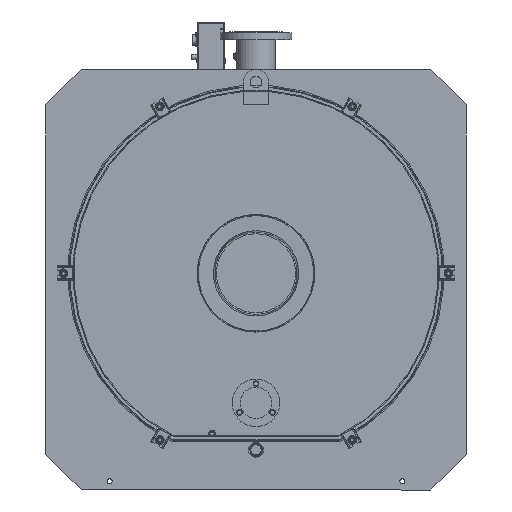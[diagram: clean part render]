
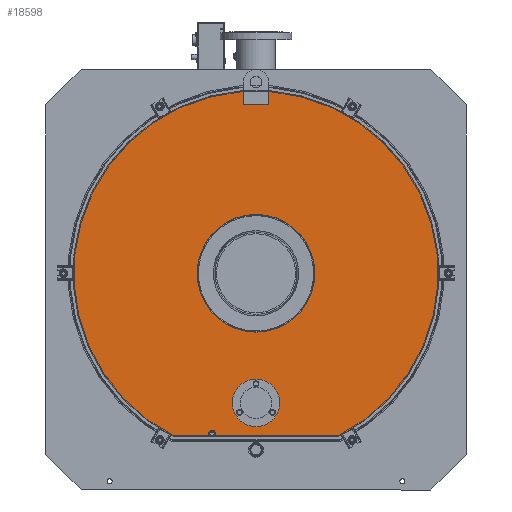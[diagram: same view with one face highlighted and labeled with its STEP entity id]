
A CAD part, left-side view. The second image highlights one B-rep face of the part: STEP entity #18598.
In plain terms, the highlighted planar face has unit normal (-1, 0, 0).
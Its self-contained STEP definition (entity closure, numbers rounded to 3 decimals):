
#18598=ADVANCED_FACE('',(#60419,#60421,#60423),#60425,.T.);
#60419=FACE_BOUND('',#60420,.T.);
#60420=EDGE_LOOP('',(#81886,#81887,#81888,#81889,#81890,#81891,#81892,#81893,#81894,
#81895));
#60421=FACE_BOUND('',#60422,.T.);
#60422=EDGE_LOOP('',(#81896));
#60423=FACE_BOUND('',#60424,.T.);
#60424=EDGE_LOOP('',(#81897));
#60425=PLANE('',#60426);
#60426=AXIS2_PLACEMENT_3D('',#60427,#60428,#60429);
#60427=CARTESIAN_POINT('',(-2228.,0.,0.));
#60428=DIRECTION('',(-1.,0.,0.));
#60429=DIRECTION('',(0.,-1.,0.));
#81886=ORIENTED_EDGE('',*,*,#92544,.F.);
#81887=ORIENTED_EDGE('',*,*,#92545,.F.);
#81888=ORIENTED_EDGE('',*,*,#92546,.F.);
#81889=ORIENTED_EDGE('',*,*,#92311,.T.);
#81890=ORIENTED_EDGE('',*,*,#92326,.T.);
#81891=ORIENTED_EDGE('',*,*,#92547,.T.);
#81892=ORIENTED_EDGE('',*,*,#92548,.T.);
#81893=ORIENTED_EDGE('',*,*,#92549,.T.);
#81894=ORIENTED_EDGE('',*,*,#92322,.T.);
#81895=ORIENTED_EDGE('',*,*,#92313,.T.);
#81896=ORIENTED_EDGE('',*,*,#92550,.T.);
#81897=ORIENTED_EDGE('',*,*,#92551,.F.);
#92311=EDGE_CURVE('',#103083,#103081,#103084,.T.);
#92313=EDGE_CURVE('',#103087,#103085,#103088,.T.);
#92322=EDGE_CURVE('',#103101,#103087,#103102,.T.);
#92326=EDGE_CURVE('',#103081,#103107,#103109,.T.);
#92544=EDGE_CURVE('',#103435,#103085,#103436,.T.);
#92545=EDGE_CURVE('',#103437,#103435,#103438,.T.);
#92546=EDGE_CURVE('',#103083,#103437,#103439,.T.);
#92547=EDGE_CURVE('',#103107,#103440,#103441,.F.);
#92548=EDGE_CURVE('',#103440,#103442,#103443,.F.);
#92549=EDGE_CURVE('',#103442,#103101,#103444,.F.);
#92550=EDGE_CURVE('',#103445,#103445,#103446,.F.);
#92551=EDGE_CURVE('',#103447,#103447,#103448,.T.);
#103081=VERTEX_POINT('',#138945);
#103083=VERTEX_POINT('',#138949);
#103084=CIRCLE('',#138950,625.);
#103085=VERTEX_POINT('',#138954);
#103087=VERTEX_POINT('',#138959);
#103088=CIRCLE('',#138960,625.);
#103101=VERTEX_POINT('',#138993);
#103102=LINE('',#138994,#138995);
#103107=VERTEX_POINT('',#139005);
#103109=LINE('',#139009,#139010);
#103435=VERTEX_POINT('',#139783);
#103436=LINE('',#139784,#139785);
#103437=VERTEX_POINT('',#139787);
#103438=LINE('',#139788,#139789);
#103439=LINE('',#139791,#139792);
#103440=VERTEX_POINT('',#139794);
#103441=LINE('',#139795,#139796);
#103442=VERTEX_POINT('',#139798);
#103443=CIRCLE('',#139799,11.);
#103444=LINE('',#139803,#139804);
#103445=VERTEX_POINT('',#139806);
#103446=CIRCLE('',#139807,201.);
#103447=VERTEX_POINT('',#139811);
#103448=CIRCLE('',#139812,81.);
#138945=CARTESIAN_POINT('',(-2228.,282.522,-557.5));
#138949=CARTESIAN_POINT('',(-2228.,43.,623.519));
#138950=AXIS2_PLACEMENT_3D('',#138951,#138952,#138953);
#138951=CARTESIAN_POINT('',(-2228.,0.,0.));
#138952=DIRECTION('',(-1.,0.,0.));
#138953=DIRECTION('',(0.,0.069,0.998));
#138954=CARTESIAN_POINT('',(-2228.,-43.,623.519));
#138959=CARTESIAN_POINT('',(-2228.,-282.522,-557.5));
#138960=AXIS2_PLACEMENT_3D('',#138961,#138962,#138963);
#138961=CARTESIAN_POINT('',(-2228.,0.,0.));
#138962=DIRECTION('',(-1.,0.,0.));
#138963=DIRECTION('',(0.,-0.452,-0.892));
#138993=CARTESIAN_POINT('',(-2228.,145.417,-557.5));
#138994=CARTESIAN_POINT('',(-2228.,145.417,-557.5));
#138995=VECTOR('',#138996,1.);
#138996=DIRECTION('',(0.,-1.,0.));
#139005=CARTESIAN_POINT('',(-2228.,154.583,-557.5));
#139009=CARTESIAN_POINT('',(-2228.,282.522,-557.5));
#139010=VECTOR('',#139011,1.);
#139011=DIRECTION('',(0.,-1.,0.));
#139783=CARTESIAN_POINT('',(-2228.,-43.,577.));
#139784=CARTESIAN_POINT('',(-2228.,-43.,577.));
#139785=VECTOR('',#139786,1.);
#139786=DIRECTION('',(0.,0.,1.));
#139787=CARTESIAN_POINT('',(-2228.,43.,577.));
#139788=CARTESIAN_POINT('',(-2228.,43.,577.));
#139789=VECTOR('',#139790,1.);
#139790=DIRECTION('',(0.,-1.,0.));
#139791=CARTESIAN_POINT('',(-2228.,43.,623.519));
#139792=VECTOR('',#139793,1.);
#139793=DIRECTION('',(0.,0.,-1.));
#139794=CARTESIAN_POINT('',(-2228.,154.583,-556.5));
#139795=CARTESIAN_POINT('',(-2228.,154.583,-556.5));
#139796=VECTOR('',#139797,1.);
#139797=DIRECTION('',(0.,0.,-1.));
#139798=CARTESIAN_POINT('',(-2228.,145.417,-556.5));
#139799=AXIS2_PLACEMENT_3D('',#139800,#139801,#139802);
#139800=CARTESIAN_POINT('',(-2228.,150.,-546.5));
#139801=DIRECTION('',(-1.,0.,0.));
#139802=DIRECTION('',(0.,-0.417,-0.909));
#139803=CARTESIAN_POINT('',(-2228.,145.417,-557.5));
#139804=VECTOR('',#139805,1.);
#139805=DIRECTION('',(0.,0.,1.));
#139806=CARTESIAN_POINT('',(-2228.,-201.,0.));
#139807=AXIS2_PLACEMENT_3D('',#139808,#139809,#139810);
#139808=CARTESIAN_POINT('',(-2228.,0.,0.));
#139809=DIRECTION('',(-1.,0.,0.));
#139810=DIRECTION('',(0.,-1.,0.));
#139811=CARTESIAN_POINT('',(-2228.,-81.,-442.5));
#139812=AXIS2_PLACEMENT_3D('',#139813,#139814,#139815);
#139813=CARTESIAN_POINT('',(-2228.,0.,-442.5));
#139814=DIRECTION('',(-1.,0.,0.));
#139815=DIRECTION('',(0.,-1.,0.));
